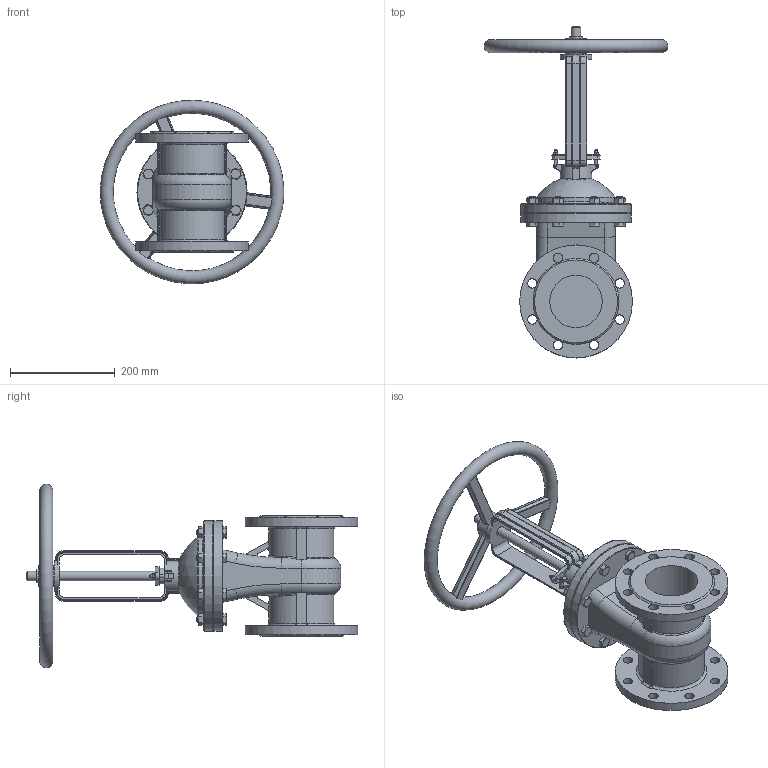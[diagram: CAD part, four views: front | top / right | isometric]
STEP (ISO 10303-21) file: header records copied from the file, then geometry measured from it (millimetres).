
FILE_DESCRIPTION(('STEP AP242'), '1');
FILE_NAME('GVWR2626M-2W-F-S Çàäâèæêà êëèíîâàÿ ñ âûäâèæíûì øòîêîì DN.ru Äó100 Ðó16', '', ('UNSPECIFIED'), ('UNSPECIFIED'), 'C3D Converter', 'C3D Toolkit', '');
FILE_SCHEMA(('AP242_MANAGED_MODEL_BASED_3D_ENGINEERING_MIM_LF { 1 0 10303 442 1 1 4 }'));
Length unit declared in the file: millimetre
Products named in the file (1): GVWR2626M-2W-F-S
Bounding box: 349.69 x 632.5 x 349.75 mm (x, y, z)
Volume: 6670751.1 mm3; surface area: 634813.7 mm2
Topology: 1 solids, 1 shells, 718 faces, 1858 edges, 1168 vertices
Faces by surface type: plane 312, cylinder 194, torus 77, bspline 69, cone 65, sphere 1
Full cylindrical faces by diameter (mm): 3 x3, 5 x4, 8 x2, 12 x16, 18 x18, 20 x1, 25 x1, 30 x1, 40 x2, 50 x1, 60 x1, 100 x2, 150 x2, 210 x2, 215 x2
Entity records: 47416 total; most frequent: CARTESIAN_POINT 25227, ORIENTED_EDGE 3498, DIRECTION 3072, EDGE_CURVE 1749, AXIS2_PLACEMENT_3D 1223, VERTEX_POINT 1163, EDGE_LOOP 918, FACE_BOUND 783
